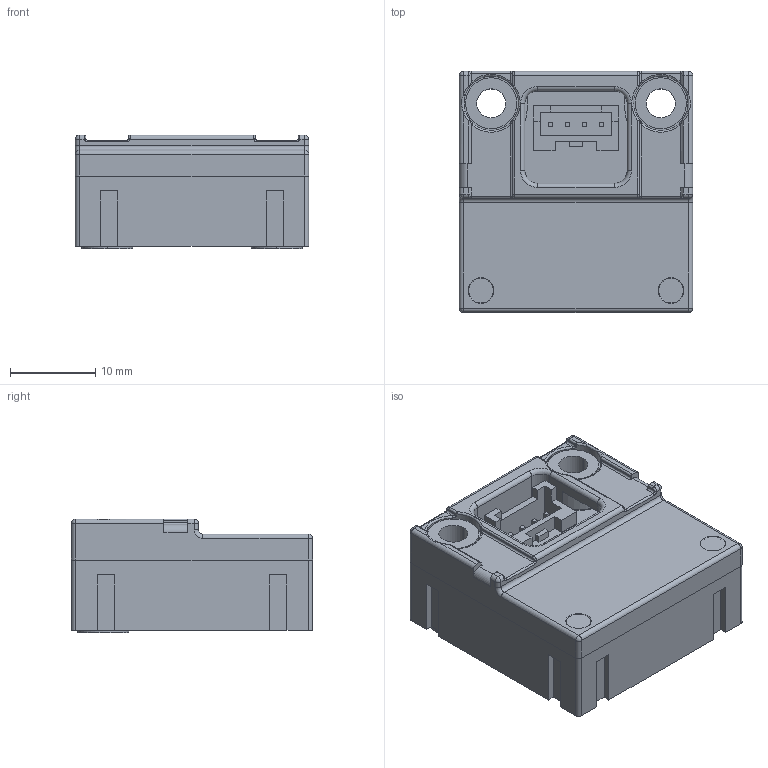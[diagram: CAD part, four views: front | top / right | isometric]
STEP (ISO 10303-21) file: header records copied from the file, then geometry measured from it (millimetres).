
FILE_DESCRIPTION((''),'2;1');
FILE_NAME('0000109346_ASM','2016-04-26T',('11000535'),(''),'PRO/ENGINEER BY PARAMETRIC TECHNOLOGY CORPORATION, 2014090','PRO/ENGINEER BY PARAMETRIC TECHNOLOGY CORPORATION, 2014090','');
FILE_SCHEMA(('AUTOMOTIVE_DESIGN { 1 0 10303 214 1 1 1 1 }'));
Length unit declared in the file: millimetre
Products named in the file (6): 0000063760; 0000064006; 0000064115; 0000109347; 0000063833; 0000109346_ASM
Assembly tree (6 placements, depth 2):
  0000109346_ASM
    0000063760
    0000064006
    0000064115
    0000109347
    0000063833  x2
Bounding box: 27.4 x 28.3 x 13.35 mm (x, y, z)
Volume: 7822.4 mm3; surface area: 8857.7 mm2
Topology: 6 solids, 6 shells, 524 faces, 1357 edges, 864 vertices
Faces by surface type: plane 258, cylinder 174, torus 36, bspline 26, cone 16, sphere 14
Entity records: 24708 total; most frequent: CARTESIAN_POINT 4680, DIRECTION 2689, ORIENTED_EDGE 2642, PRESENTATION_STYLE_ASSIGNMENT 1326, STYLED_ITEM 1326, CURVE_STYLE 1321, EDGE_CURVE 1321, AXIS2_PLACEMENT_3D 932
